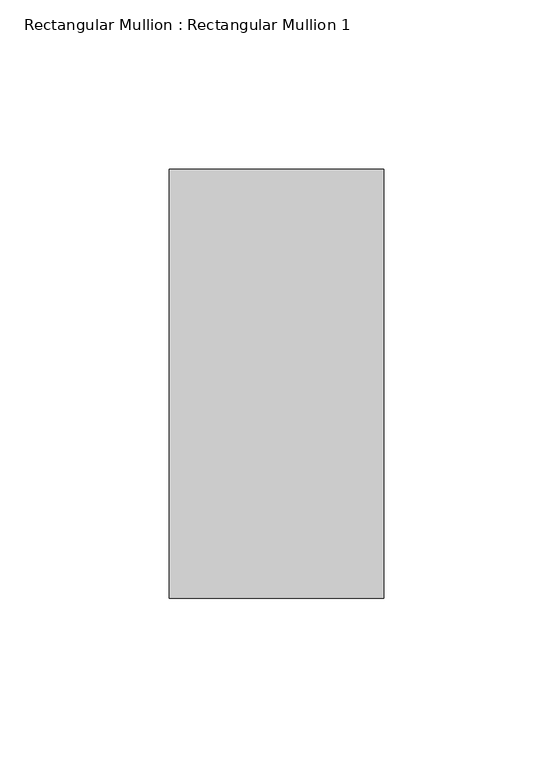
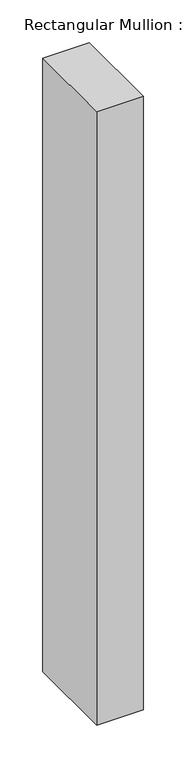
"""IFC4 building model written with IfcOpenShell, lengths in millimetres: member geometry, Rectangular Mullion : Rectangular Mullion 1."""

from ifc_helpers import new_model, si_unit, frame, origin, place, context, project, spatial, polyline, outline, extrude, source, transform, mapped, element, save


def rectangular_mullion_rectangular_mullion_1_2650d14b(model_context):
    return source(origin(), model_context, "Body", "SweptSolid", [
        extrude(outline(polyline([(31.75, 63.5), (31.75, -63.5), (-31.75, -63.5), (-31.75, 63.5), (31.75, 63.5)])), frame((0.0, 0.0, -880.3659605), z_axis=(0.0, 0.0, 1.0), x_axis=(1.0, 0.0, 0.0)), (0.0, 0.0, 1.0), 880.3659605),
    ])


if __name__ == "__main__":
    model = new_model("IFC4")
    model_context = context("Model", 3, world=origin())
    ifc_project = project(units=[si_unit("LENGTHUNIT", "METRE", prefix="MILLI")], contexts=[model_context])
    site = spatial("IfcSite", under=ifc_project)
    building = spatial("IfcBuilding", under=site)
    placement = place(None, origin())
    rectangular_mullion_rectangular_mullion_1_shape = rectangular_mullion_rectangular_mullion_1_2650d14b(model_context)
    element("IfcMember", 1, ObjectType="Rectangular Mullion : Rectangular Mullion 1", at=placement, inside=building, context=model_context, shape_type="MappedRepresentation", body=[
        mapped(rectangular_mullion_rectangular_mullion_1_shape, transform((0.0, 0.0, 0.0), x_axis=(1.0, 0.0, 0.0), y_axis=(0.0, 1.0, 0.0), z_axis=(0.0, 0.0, 1.0))),
    ])
    save(model, "model.ifc")
